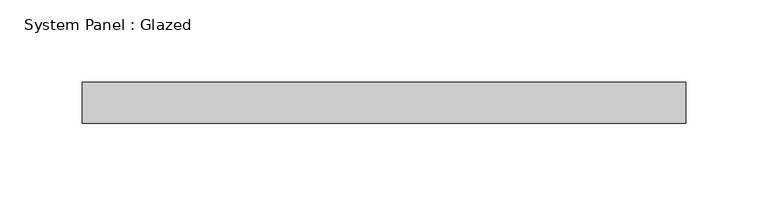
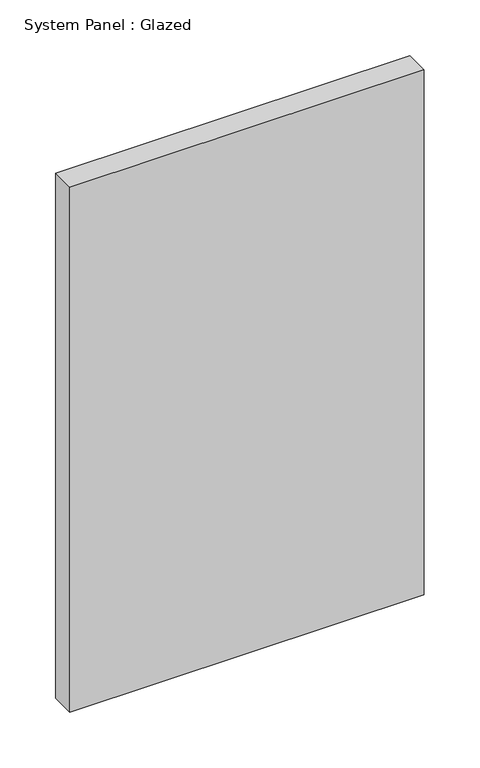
"""IFC4 building model written with IfcOpenShell, lengths in millimetres: plate geometry, System Panel : Glazed."""

from ifc_helpers import new_model, si_unit, origin, origin_with_axes, place, context, project, spatial, polyline, outline, extrude, source, transform, mapped, element, save


def system_panel_glazed_60207cc9(model_context):
    return source(origin(), model_context, "Body", "SweptSolid", [
        extrude(outline(polyline([(183.5786901, -12.5), (-183.5786901, -12.5), (-183.5786901, 12.5), (183.5786901, 12.5), (183.5786901, -12.5)])), origin_with_axes(), (0.0, 0.0, 1.0), 575.0),
    ])


if __name__ == "__main__":
    model = new_model("IFC4")
    model_context = context("Model", 3, world=origin())
    ifc_project = project(units=[si_unit("LENGTHUNIT", "METRE", prefix="MILLI")], contexts=[model_context])
    site = spatial("IfcSite", under=ifc_project)
    building = spatial("IfcBuilding", under=site)
    placement = place(None, origin())
    system_panel_glazed_shape = system_panel_glazed_60207cc9(model_context)
    element("IfcPlate", 1, ObjectType="System Panel : Glazed", at=placement, inside=building, context=model_context, shape_type="MappedRepresentation", body=[
        mapped(system_panel_glazed_shape, transform((0.0, 0.0, 0.0), x_axis=(1.0, 0.0, 0.0), y_axis=(0.0, 1.0, 0.0), z_axis=(0.0, 0.0, 1.0))),
    ])
    save(model, "model.ifc")
